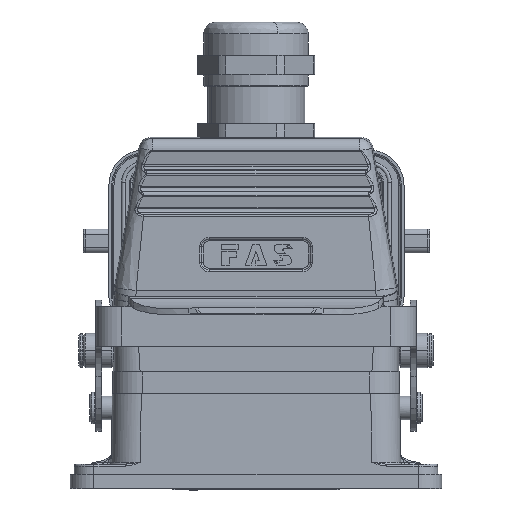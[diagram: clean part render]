
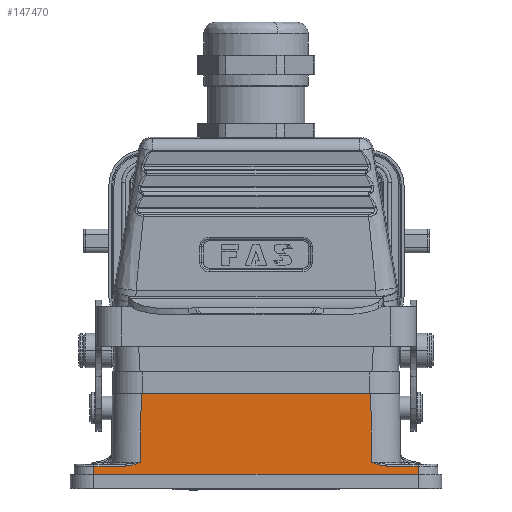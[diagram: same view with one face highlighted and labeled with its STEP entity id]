
A CAD part, top view. The second image highlights one B-rep face of the part: STEP entity #147470.
In plain terms, the highlighted planar face has unit normal (0, 0.014, 1) as drawn and (0, -1, 0.014) by its records, which use the part's own axes.
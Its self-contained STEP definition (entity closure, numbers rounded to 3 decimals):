
#175 = EDGE_CURVE ( 'NONE', #29060, #93834, #139924, .T. ) ;
#1370 = CARTESIAN_POINT ( 'NONE',  ( -31.46, -21.754, 4.038 ) ) ;
#2315 = CARTESIAN_POINT ( 'NONE',  ( 41.5, -21.81, 0. ) ) ;
#5621 = CARTESIAN_POINT ( 'NONE',  ( 32.554, -21.757, 3.781 ) ) ;
#8291 = CARTESIAN_POINT ( 'NONE',  ( 0., -21.5, 22.2 ) ) ;
#8497 = LINE ( 'NONE', #88435, #51007 ) ;
#11530 = EDGE_CURVE ( 'NONE', #13146, #29060, #167260, .T. ) ;
#13146 = VERTEX_POINT ( 'NONE', #63825 ) ;
#16517 = CARTESIAN_POINT ( 'NONE',  ( 33.417, -21.758, 3.707 ) ) ;
#21017 = CARTESIAN_POINT ( 'NONE',  ( 33.417, -21.758, 3.707 ) ) ;
#22016 = CARTESIAN_POINT ( 'NONE',  ( 31.793, -21.755, 3.937 ) ) ;
#27864 = DIRECTION ( 'NONE',  ( -1., 0., 0. ) ) ;
#29060 = VERTEX_POINT ( 'NONE', #133436 ) ;
#31744 = CARTESIAN_POINT ( 'NONE',  ( 41.5, -21.81, 0. ) ) ;
#32029 = EDGE_CURVE ( 'NONE', #32770, #122693, #8497, .T. ) ;
#32770 = VERTEX_POINT ( 'NONE', #162623 ) ;
#34158 = CARTESIAN_POINT ( 'NONE',  ( -31.463, -21.754, 4.037 ) ) ;
#39379 = CARTESIAN_POINT ( 'NONE',  ( 32.213, -21.756, 3.846 ) ) ;
#40394 = CARTESIAN_POINT ( 'NONE',  ( 32.17, -21.756, 3.855 ) ) ;
#42232 = CARTESIAN_POINT ( 'NONE',  ( -29.351, -21.5, 22.2 ) ) ;
#43256 = PLANE ( 'NONE',  #195211 ) ;
#43274 = VECTOR ( 'NONE', #70810, 1000. ) ;
#43536 = CARTESIAN_POINT ( 'NONE',  ( 0., -21.81, 0. ) ) ;
#45581 = VECTOR ( 'NONE', #124406, 1000. ) ;
#47537 = DIRECTION ( 'NONE',  ( 1., 0., 0. ) ) ;
#49880 = CARTESIAN_POINT ( 'NONE',  ( -48.758, -21.758, 3.707 ) ) ;
#50518 = CARTESIAN_POINT ( 'NONE',  ( -31.464, -21.754, 4.037 ) ) ;
#51007 = VECTOR ( 'NONE', #150014, 1000. ) ;
#52759 = CARTESIAN_POINT ( 'NONE',  ( 30.947, -21.751, 4.2 ) ) ;
#52831 = B_SPLINE_CURVE_WITH_KNOTS ( 'NONE', 3,
 ( #126512, #175722, #159296, #141882, #80323, #190115, #156266, #111102, #129550, #1370, #34158, #50518, #191132, #140893, #95720 ),
 .UNSPECIFIED., .F., .F.,
 ( 4, 1, 1, 1, 1, 1, 1, 1, 2, 2, 4 ),
 ( 0., 0.25, 0.375, 0.438, 0.469, 0.484, 0.492, 0.496, 0.498, 0.5, 1. ),
 .UNSPECIFIED. ) ;
#53745 = CARTESIAN_POINT ( 'NONE',  ( 32.928, -21.758, 3.726 ) ) ;
#55827 = ORIENTED_EDGE ( 'NONE', *, *, #200312, .T. ) ;
#60507 = DIRECTION ( 'NONE',  ( -0.014, -0.014, -1. ) ) ;
#60918 = CARTESIAN_POINT ( 'NONE',  ( 29.514, -21.663, 10.529 ) ) ;
#60928 = EDGE_CURVE ( 'NONE', #93834, #32770, #94637, .T. ) ;
#63825 = CARTESIAN_POINT ( 'NONE',  ( -41.449, -21.758, 3.707 ) ) ;
#65775 = CARTESIAN_POINT ( 'NONE',  ( 29.595, -21.744, 4.693 ) ) ;
#66523 = EDGE_CURVE ( 'NONE', #177348, #181805, #52831, .T. ) ;
#70810 = DIRECTION ( 'NONE',  ( 1., 0., 0. ) ) ;
#71748 = B_SPLINE_CURVE_WITH_KNOTS ( 'NONE', 3,
 ( #158290, #189122, #60918, #123490 ),
 .UNSPECIFIED., .F., .F.,
 ( 4, 4 ),
 ( 0., 1. ),
 .UNSPECIFIED. ) ;
#78543 = ORIENTED_EDGE ( 'NONE', *, *, #66523, .T. ) ;
#80323 = CARTESIAN_POINT ( 'NONE',  ( -31.257, -21.753, 4.1 ) ) ;
#80326 = EDGE_CURVE ( 'NONE', #147424, #177348, #180970, .T. ) ;
#84535 = VECTOR ( 'NONE', #60507, 1000. ) ;
#84992 = B_SPLINE_CURVE_WITH_KNOTS ( 'NONE', 3,
 ( #202570, #138904, #110141, #107144 ),
 .UNSPECIFIED., .F., .F.,
 ( 4, 4 ),
 ( 0., 1. ),
 .UNSPECIFIED. ) ;
#88435 = CARTESIAN_POINT ( 'NONE',  ( -48.758, -21.758, 3.707 ) ) ;
#89274 = CARTESIAN_POINT ( 'NONE',  ( -41.449, -21.758, 3.707 ) ) ;
#91684 = EDGE_LOOP ( 'NONE', ( #187250, #103248, #114929, #151439, #156718, #109209, #78543, #55827, #137319, #97752, #92736 ) ) ;
#92736 = ORIENTED_EDGE ( 'NONE', *, *, #60928, .T. ) ;
#93611 = EDGE_CURVE ( 'NONE', #147424, #125953, #164164, .T. ) ;
#93834 = VERTEX_POINT ( 'NONE', #31744 ) ;
#94637 = LINE ( 'NONE', #2315, #45581 ) ;
#95720 = CARTESIAN_POINT ( 'NONE',  ( -33.417, -21.758, 3.707 ) ) ;
#96163 = B_SPLINE_CURVE_WITH_KNOTS ( 'NONE', 3,
 ( #21017, #161496, #53745, #5621, #196382, #116345, #39379, #101957, #133747, #40394, #22016, #180946, #52759 ),
 .UNSPECIFIED., .F., .F.,
 ( 4, 1, 1, 1, 1, 1, 2, 2, 4 ),
 ( 0., 0.25, 0.375, 0.438, 0.469, 0.484, 0.492, 0.5, 1. ),
 .UNSPECIFIED. ) ;
#97752 = ORIENTED_EDGE ( 'NONE', *, *, #175, .T. ) ;
#101957 = CARTESIAN_POINT ( 'NONE',  ( 32.192, -21.756, 3.851 ) ) ;
#103248 = ORIENTED_EDGE ( 'NONE', *, *, #129156, .T. ) ;
#105445 = VECTOR ( 'NONE', #112450, 1000. ) ;
#105832 = CARTESIAN_POINT ( 'NONE',  ( -48.758, -21.5, 22.2 ) ) ;
#107144 = CARTESIAN_POINT ( 'NONE',  ( 29.595, -21.744, 4.693 ) ) ;
#109209 = ORIENTED_EDGE ( 'NONE', *, *, #80326, .T. ) ;
#110141 = CARTESIAN_POINT ( 'NONE',  ( 30.042, -21.747, 4.519 ) ) ;
#111102 = CARTESIAN_POINT ( 'NONE',  ( -31.442, -21.754, 4.044 ) ) ;
#112450 = DIRECTION ( 'NONE',  ( -1., 0., 0. ) ) ;
#114929 = ORIENTED_EDGE ( 'NONE', *, *, #115468, .T. ) ;
#115468 = EDGE_CURVE ( 'NONE', #167246, #139422, #84992, .T. ) ;
#116345 = CARTESIAN_POINT ( 'NONE',  ( 32.263, -21.756, 3.836 ) ) ;
#118006 = EDGE_CURVE ( 'NONE', #125953, #139422, #71748, .T. ) ;
#118346 = CARTESIAN_POINT ( 'NONE',  ( 29.351, -21.5, 22.2 ) ) ;
#122693 = VERTEX_POINT ( 'NONE', #16517 ) ;
#123490 = CARTESIAN_POINT ( 'NONE',  ( 29.595, -21.744, 4.693 ) ) ;
#124406 = DIRECTION ( 'NONE',  ( -0.014, 0.014, 1. ) ) ;
#125953 = VERTEX_POINT ( 'NONE', #118346 ) ;
#126512 = CARTESIAN_POINT ( 'NONE',  ( -29.595, -21.744, 4.693 ) ) ;
#129156 = EDGE_CURVE ( 'NONE', #122693, #167246, #96163, .T. ) ;
#129550 = CARTESIAN_POINT ( 'NONE',  ( -31.454, -21.754, 4.04 ) ) ;
#132742 = DIRECTION ( 'NONE',  ( -0.014, -0.014, -1. ) ) ;
#133436 = CARTESIAN_POINT ( 'NONE',  ( -41.5, -21.81, 0. ) ) ;
#133747 = CARTESIAN_POINT ( 'NONE',  ( 32.178, -21.756, 3.854 ) ) ;
#137319 = ORIENTED_EDGE ( 'NONE', *, *, #11530, .T. ) ;
#138904 = CARTESIAN_POINT ( 'NONE',  ( 30.493, -21.749, 4.355 ) ) ;
#139422 = VERTEX_POINT ( 'NONE', #65775 ) ;
#139924 = LINE ( 'NONE', #43536, #184783 ) ;
#140893 = CARTESIAN_POINT ( 'NONE',  ( -32.86, -21.758, 3.708 ) ) ;
#141862 = CARTESIAN_POINT ( 'NONE',  ( 30.947, -21.751, 4.2 ) ) ;
#141882 = CARTESIAN_POINT ( 'NONE',  ( -31.028, -21.752, 4.173 ) ) ;
#147424 = VERTEX_POINT ( 'NONE', #42232 ) ;
#147470 = ADVANCED_FACE ( 'NONE', ( #198220 ), #43256, .T. ) ;
#150014 = DIRECTION ( 'NONE',  ( -1., 0., 0. ) ) ;
#151439 = ORIENTED_EDGE ( 'NONE', *, *, #118006, .F. ) ;
#153299 = VECTOR ( 'NONE', #132742, 1000. ) ;
#156266 = CARTESIAN_POINT ( 'NONE',  ( -31.416, -21.753, 4.051 ) ) ;
#156718 = ORIENTED_EDGE ( 'NONE', *, *, #93611, .F. ) ;
#158290 = CARTESIAN_POINT ( 'NONE',  ( 29.351, -21.5, 22.2 ) ) ;
#159296 = CARTESIAN_POINT ( 'NONE',  ( -30.518, -21.749, 4.346 ) ) ;
#161496 = CARTESIAN_POINT ( 'NONE',  ( 33.227, -21.758, 3.707 ) ) ;
#162623 = CARTESIAN_POINT ( 'NONE',  ( 41.449, -21.758, 3.707 ) ) ;
#164164 = LINE ( 'NONE', #8291, #43274 ) ;
#167246 = VERTEX_POINT ( 'NONE', #141862 ) ;
#167260 = LINE ( 'NONE', #89274, #84535 ) ;
#168403 = DIRECTION ( 'NONE',  ( 0., -1., 0.014 ) ) ;
#175722 = CARTESIAN_POINT ( 'NONE',  ( -29.989, -21.747, 4.542 ) ) ;
#177348 = VERTEX_POINT ( 'NONE', #185292 ) ;
#177954 = CARTESIAN_POINT ( 'NONE',  ( -29.351, -21.5, 22.2 ) ) ;
#180946 = CARTESIAN_POINT ( 'NONE',  ( 31.388, -21.753, 4.052 ) ) ;
#180970 = LINE ( 'NONE', #177954, #153299 ) ;
#181805 = VERTEX_POINT ( 'NONE', #186334 ) ;
#184783 = VECTOR ( 'NONE', #47537, 1000. ) ;
#185292 = CARTESIAN_POINT ( 'NONE',  ( -29.595, -21.744, 4.693 ) ) ;
#186334 = CARTESIAN_POINT ( 'NONE',  ( -33.417, -21.758, 3.707 ) ) ;
#187250 = ORIENTED_EDGE ( 'NONE', *, *, #32029, .T. ) ;
#189122 = CARTESIAN_POINT ( 'NONE',  ( 29.432, -21.581, 16.364 ) ) ;
#190115 = CARTESIAN_POINT ( 'NONE',  ( -31.364, -21.753, 4.067 ) ) ;
#190472 = LINE ( 'NONE', #49880, #105445 ) ;
#191132 = CARTESIAN_POINT ( 'NONE',  ( -32.21, -21.757, 3.818 ) ) ;
#195211 = AXIS2_PLACEMENT_3D ( 'NONE', #105832, #168403, #27864 ) ;
#196382 = CARTESIAN_POINT ( 'NONE',  ( 32.361, -21.757, 3.816 ) ) ;
#198220 = FACE_OUTER_BOUND ( 'NONE', #91684, .T. ) ;
#200312 = EDGE_CURVE ( 'NONE', #181805, #13146, #190472, .T. ) ;
#202570 = CARTESIAN_POINT ( 'NONE',  ( 30.947, -21.751, 4.2 ) ) ;
